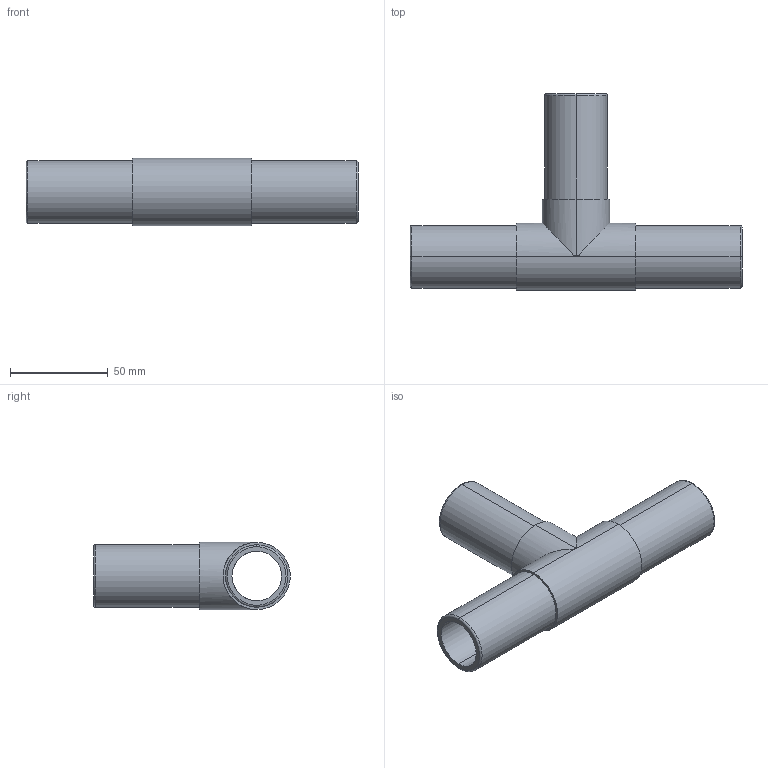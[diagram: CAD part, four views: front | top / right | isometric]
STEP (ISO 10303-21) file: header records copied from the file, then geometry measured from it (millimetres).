
FILE_DESCRIPTION (( 'STEP AP203' ), '1' );
FILE_NAME ('KP_8-32.step', '2011-08-08T11:40:43', ( '' ), ( '' ), 'SwSTEP 2.0', 'SolidWorks 2011', '' );
FILE_SCHEMA (( 'CONFIG_CONTROL_DESIGN' ));
Length unit declared in the file: millimetre
Products named in the file (1): KP_8-32
Bounding box: 170 x 100.7 x 34.5 mm (x, y, z)
Volume: 78683.7 mm3; surface area: 43883.7 mm2
Topology: 1 solids, 1 shells, 29 faces, 62 edges, 38 vertices
Faces by surface type: cylinder 15, plane 8, torus 6
Entity records: 1009 total; most frequent: CARTESIAN_POINT 268, DIRECTION 158, ORIENTED_EDGE 124, AXIS2_PLACEMENT_3D 70, EDGE_CURVE 62, CIRCLE 40, VERTEX_POINT 38, EDGE_LOOP 36
